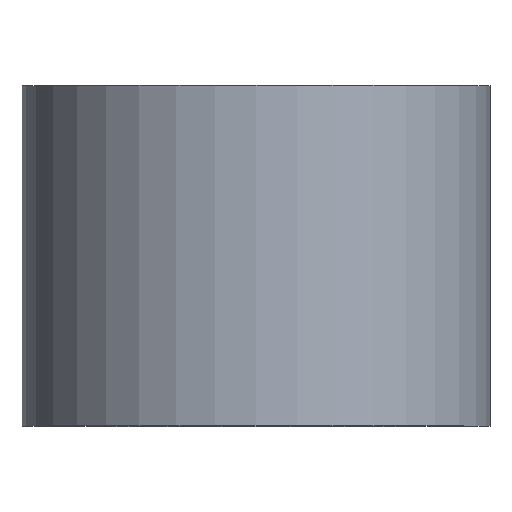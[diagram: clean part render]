
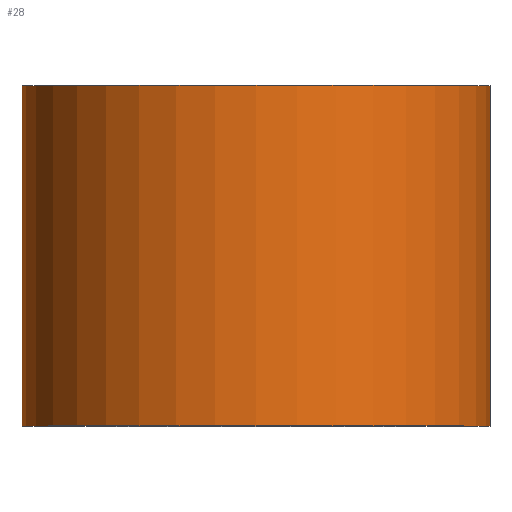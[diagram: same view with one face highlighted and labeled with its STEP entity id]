
A CAD part, top view. The second image highlights one B-rep face of the part: STEP entity #28.
In plain terms, the highlighted cylindrical face has radius 11 mm (diameter 22 mm), a partial arc.
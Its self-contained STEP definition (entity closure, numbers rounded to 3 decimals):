
#3 = EDGE_CURVE ( 'NONE', #189, #120, #93, .T. ) ;
#15 = EDGE_LOOP ( 'NONE', ( #110, #101, #188, #182 ) ) ;
#20 = CARTESIAN_POINT ( 'NONE',  ( 0., 0., 0. ) ) ;
#28 = ADVANCED_FACE ( 'NONE', ( #157 ), #161, .T. ) ;
#34 = CARTESIAN_POINT ( 'NONE',  ( 11., 0., 0. ) ) ;
#51 = DIRECTION ( 'NONE',  ( 0., 1., 0. ) ) ;
#60 = EDGE_CURVE ( 'NONE', #61, #120, #105, .T. ) ;
#61 = VERTEX_POINT ( 'NONE', #174 ) ;
#63 = VECTOR ( 'NONE', #175, 1000. ) ;
#74 = CARTESIAN_POINT ( 'NONE',  ( -11., 0., 0. ) ) ;
#93 = LINE ( 'NONE', #34, #63 ) ;
#101 = ORIENTED_EDGE ( 'NONE', *, *, #3, .T. ) ;
#105 = CIRCLE ( 'NONE', #224, 11. ) ;
#106 = CARTESIAN_POINT ( 'NONE',  ( 0., 0., 0. ) ) ;
#110 = ORIENTED_EDGE ( 'NONE', *, *, #164, .T. ) ;
#112 = DIRECTION ( 'NONE',  ( 0., 1., 0. ) ) ;
#120 = VERTEX_POINT ( 'NONE', #223 ) ;
#124 = AXIS2_PLACEMENT_3D ( 'NONE', #20, #112, #279 ) ;
#126 = DIRECTION ( 'NONE',  ( -1., 0., 0. ) ) ;
#128 = DIRECTION ( 'NONE',  ( -1., 0., 0. ) ) ;
#134 = CARTESIAN_POINT ( 'NONE',  ( 11., 0., 0. ) ) ;
#157 = FACE_OUTER_BOUND ( 'NONE', #15, .T. ) ;
#161 = CYLINDRICAL_SURFACE ( 'NONE', #260, 11. ) ;
#164 = EDGE_CURVE ( 'NONE', #172, #189, #214, .T. ) ;
#172 = VERTEX_POINT ( 'NONE', #74 ) ;
#174 = CARTESIAN_POINT ( 'NONE',  ( -11., 16., 0. ) ) ;
#175 = DIRECTION ( 'NONE',  ( 0., 1., 0. ) ) ;
#182 = ORIENTED_EDGE ( 'NONE', *, *, #211, .F. ) ;
#188 = ORIENTED_EDGE ( 'NONE', *, *, #60, .F. ) ;
#189 = VERTEX_POINT ( 'NONE', #134 ) ;
#204 = CARTESIAN_POINT ( 'NONE',  ( -11., 0., 0. ) ) ;
#211 = EDGE_CURVE ( 'NONE', #172, #61, #221, .T. ) ;
#214 = CIRCLE ( 'NONE', #124, 11. ) ;
#221 = LINE ( 'NONE', #204, #290 ) ;
#223 = CARTESIAN_POINT ( 'NONE',  ( 11., 16., 0. ) ) ;
#224 = AXIS2_PLACEMENT_3D ( 'NONE', #264, #245, #128 ) ;
#245 = DIRECTION ( 'NONE',  ( 0., 1., 0. ) ) ;
#260 = AXIS2_PLACEMENT_3D ( 'NONE', #106, #51, #126 ) ;
#264 = CARTESIAN_POINT ( 'NONE',  ( 0., 16., 0. ) ) ;
#279 = DIRECTION ( 'NONE',  ( -1., 0., 0. ) ) ;
#290 = VECTOR ( 'NONE', #301, 1000. ) ;
#301 = DIRECTION ( 'NONE',  ( 0., 1., 0. ) ) ;
